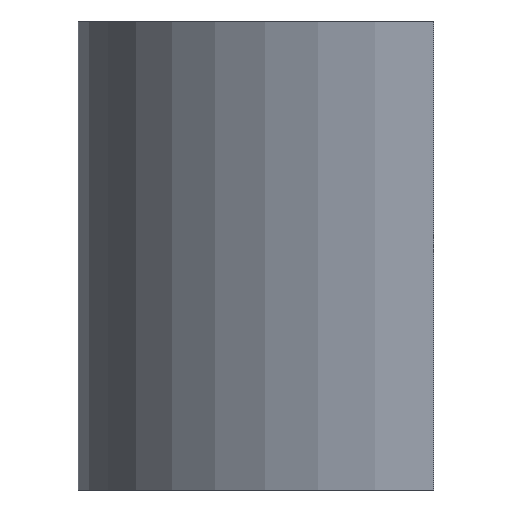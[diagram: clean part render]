
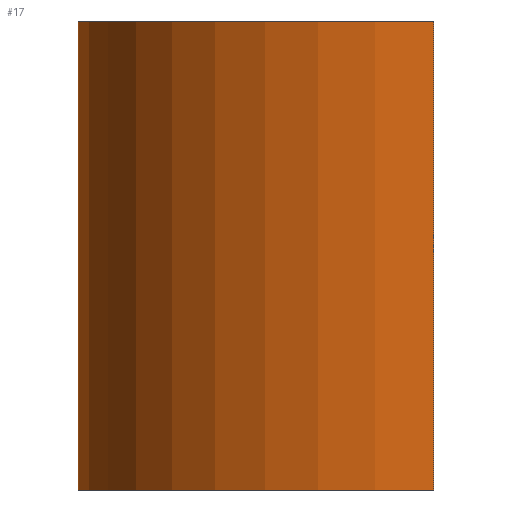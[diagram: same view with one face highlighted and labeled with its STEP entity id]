
A CAD part, left-side view. The second image highlights one B-rep face of the part: STEP entity #17.
In plain terms, the highlighted cylindrical face has radius 16 mm (diameter 32 mm), a partial arc.
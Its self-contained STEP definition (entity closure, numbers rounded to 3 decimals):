
#17 = ADVANCED_FACE('',(#18),#33,.T.);
#18 = FACE_BOUND('',#19,.F.);
#19 = EDGE_LOOP('',(#20,#56,#82,#111));
#20 = ORIENTED_EDGE('',*,*,#21,.F.);
#21 = EDGE_CURVE('',#22,#24,#26,.T.);
#22 = VERTEX_POINT('',#23);
#23 = CARTESIAN_POINT('',(60.,29.246,0.5));
#24 = VERTEX_POINT('',#25);
#25 = CARTESIAN_POINT('',(30.,21.5,0.5));
#26 = SURFACE_CURVE('',#27,(#32,#44),.PCURVE_S1.);
#27 = CIRCLE('',#28,16.);
#28 = AXIS2_PLACEMENT_3D('',#29,#30,#31);
#29 = CARTESIAN_POINT('',(46.,21.5,0.5));
#30 = DIRECTION('',(0.,0.,1.));
#31 = DIRECTION('',(1.,0.,0.));
#32 = PCURVE('',#33,#38);
#33 = CYLINDRICAL_SURFACE('',#34,16.);
#34 = AXIS2_PLACEMENT_3D('',#35,#36,#37);
#35 = CARTESIAN_POINT('',(46.,21.5,0.5));
#36 = DIRECTION('',(-0.,-0.,-1.));
#37 = DIRECTION('',(1.,0.,0.));
#38 = DEFINITIONAL_REPRESENTATION('',(#39),#43);
#39 = LINE('',#40,#41);
#40 = CARTESIAN_POINT('',(-0.,0.));
#41 = VECTOR('',#42,1.);
#42 = DIRECTION('',(-1.,0.));
#43 = ( GEOMETRIC_REPRESENTATION_CONTEXT(2) 
PARAMETRIC_REPRESENTATION_CONTEXT() REPRESENTATION_CONTEXT('2D SPACE',''
  ) );
#44 = PCURVE('',#45,#50);
#45 = PLANE('',#46);
#46 = AXIS2_PLACEMENT_3D('',#47,#48,#49);
#47 = CARTESIAN_POINT('',(46.,21.5,0.5));
#48 = DIRECTION('',(0.,0.,1.));
#49 = DIRECTION('',(1.,0.,-0.));
#50 = DEFINITIONAL_REPRESENTATION('',(#51),#55);
#51 = CIRCLE('',#52,16.);
#52 = AXIS2_PLACEMENT_2D('',#53,#54);
#53 = CARTESIAN_POINT('',(0.,0.));
#54 = DIRECTION('',(1.,0.));
#55 = ( GEOMETRIC_REPRESENTATION_CONTEXT(2) 
PARAMETRIC_REPRESENTATION_CONTEXT() REPRESENTATION_CONTEXT('2D SPACE',''
  ) );
#56 = ORIENTED_EDGE('',*,*,#57,.F.);
#57 = EDGE_CURVE('',#58,#22,#60,.T.);
#58 = VERTEX_POINT('',#59);
#59 = CARTESIAN_POINT('',(60.,29.246,21.5));
#60 = SURFACE_CURVE('',#61,(#65,#71),.PCURVE_S1.);
#61 = LINE('',#62,#63);
#62 = CARTESIAN_POINT('',(60.,29.246,0.5));
#63 = VECTOR('',#64,1.);
#64 = DIRECTION('',(-0.,-0.,-1.));
#65 = PCURVE('',#33,#66);
#66 = DEFINITIONAL_REPRESENTATION('',(#67),#70);
#67 = B_SPLINE_CURVE_WITH_KNOTS('',1,(#68,#69),.UNSPECIFIED.,.F.,.F.,(2,
    2),(-21.,0.),.PIECEWISE_BEZIER_KNOTS.);
#68 = CARTESIAN_POINT('',(-0.505,-21.));
#69 = CARTESIAN_POINT('',(-0.505,0.));
#70 = ( GEOMETRIC_REPRESENTATION_CONTEXT(2) 
PARAMETRIC_REPRESENTATION_CONTEXT() REPRESENTATION_CONTEXT('2D SPACE',''
  ) );
#71 = PCURVE('',#72,#77);
#72 = PLANE('',#73);
#73 = AXIS2_PLACEMENT_3D('',#74,#75,#76);
#74 = CARTESIAN_POINT('',(60.,21.5,-0.5));
#75 = DIRECTION('',(1.,0.,0.));
#76 = DIRECTION('',(0.,0.,1.));
#77 = DEFINITIONAL_REPRESENTATION('',(#78),#81);
#78 = B_SPLINE_CURVE_WITH_KNOTS('',1,(#79,#80),.UNSPECIFIED.,.F.,.F.,(2,
    2),(-21.,0.),.PIECEWISE_BEZIER_KNOTS.);
#79 = CARTESIAN_POINT('',(22.,-7.746));
#80 = CARTESIAN_POINT('',(1.,-7.746));
#81 = ( GEOMETRIC_REPRESENTATION_CONTEXT(2) 
PARAMETRIC_REPRESENTATION_CONTEXT() REPRESENTATION_CONTEXT('2D SPACE',''
  ) );
#82 = ORIENTED_EDGE('',*,*,#83,.T.);
#83 = EDGE_CURVE('',#58,#84,#86,.T.);
#84 = VERTEX_POINT('',#85);
#85 = CARTESIAN_POINT('',(30.,21.5,21.5));
#86 = SURFACE_CURVE('',#87,(#92,#99),.PCURVE_S1.);
#87 = CIRCLE('',#88,16.);
#88 = AXIS2_PLACEMENT_3D('',#89,#90,#91);
#89 = CARTESIAN_POINT('',(46.,21.5,21.5));
#90 = DIRECTION('',(0.,0.,1.));
#91 = DIRECTION('',(1.,0.,0.));
#92 = PCURVE('',#33,#93);
#93 = DEFINITIONAL_REPRESENTATION('',(#94),#98);
#94 = LINE('',#95,#96);
#95 = CARTESIAN_POINT('',(-0.,-21.));
#96 = VECTOR('',#97,1.);
#97 = DIRECTION('',(-1.,0.));
#98 = ( GEOMETRIC_REPRESENTATION_CONTEXT(2) 
PARAMETRIC_REPRESENTATION_CONTEXT() REPRESENTATION_CONTEXT('2D SPACE',''
  ) );
#99 = PCURVE('',#100,#105);
#100 = PLANE('',#101);
#101 = AXIS2_PLACEMENT_3D('',#102,#103,#104);
#102 = CARTESIAN_POINT('',(46.,21.5,21.5));
#103 = DIRECTION('',(0.,0.,1.));
#104 = DIRECTION('',(1.,0.,-0.));
#105 = DEFINITIONAL_REPRESENTATION('',(#106),#110);
#106 = CIRCLE('',#107,16.);
#107 = AXIS2_PLACEMENT_2D('',#108,#109);
#108 = CARTESIAN_POINT('',(0.,0.));
#109 = DIRECTION('',(1.,0.));
#110 = ( GEOMETRIC_REPRESENTATION_CONTEXT(2) 
PARAMETRIC_REPRESENTATION_CONTEXT() REPRESENTATION_CONTEXT('2D SPACE',''
  ) );
#111 = ORIENTED_EDGE('',*,*,#112,.T.);
#112 = EDGE_CURVE('',#84,#24,#113,.T.);
#113 = SURFACE_CURVE('',#114,(#118,#124),.PCURVE_S1.);
#114 = LINE('',#115,#116);
#115 = CARTESIAN_POINT('',(30.,21.5,0.5));
#116 = VECTOR('',#117,1.);
#117 = DIRECTION('',(-0.,-0.,-1.));
#118 = PCURVE('',#33,#119);
#119 = DEFINITIONAL_REPRESENTATION('',(#120),#123);
#120 = B_SPLINE_CURVE_WITH_KNOTS('',1,(#121,#122),.UNSPECIFIED.,.F.,.F.,
  (2,2),(-21.,0.),.PIECEWISE_BEZIER_KNOTS.);
#121 = CARTESIAN_POINT('',(-3.142,-21.));
#122 = CARTESIAN_POINT('',(-3.142,0.));
#123 = ( GEOMETRIC_REPRESENTATION_CONTEXT(2) 
PARAMETRIC_REPRESENTATION_CONTEXT() REPRESENTATION_CONTEXT('2D SPACE',''
  ) );
#124 = PCURVE('',#125,#130);
#125 = PLANE('',#126);
#126 = AXIS2_PLACEMENT_3D('',#127,#128,#129);
#127 = CARTESIAN_POINT('',(29.,21.5,-0.5));
#128 = DIRECTION('',(0.,1.,0.));
#129 = DIRECTION('',(0.,0.,1.));
#130 = DEFINITIONAL_REPRESENTATION('',(#131),#134);
#131 = B_SPLINE_CURVE_WITH_KNOTS('',1,(#132,#133),.UNSPECIFIED.,.F.,.F.,
  (2,2),(-21.,0.),.PIECEWISE_BEZIER_KNOTS.);
#132 = CARTESIAN_POINT('',(22.,1.));
#133 = CARTESIAN_POINT('',(1.,1.));
#134 = ( GEOMETRIC_REPRESENTATION_CONTEXT(2) 
PARAMETRIC_REPRESENTATION_CONTEXT() REPRESENTATION_CONTEXT('2D SPACE',''
  ) );
